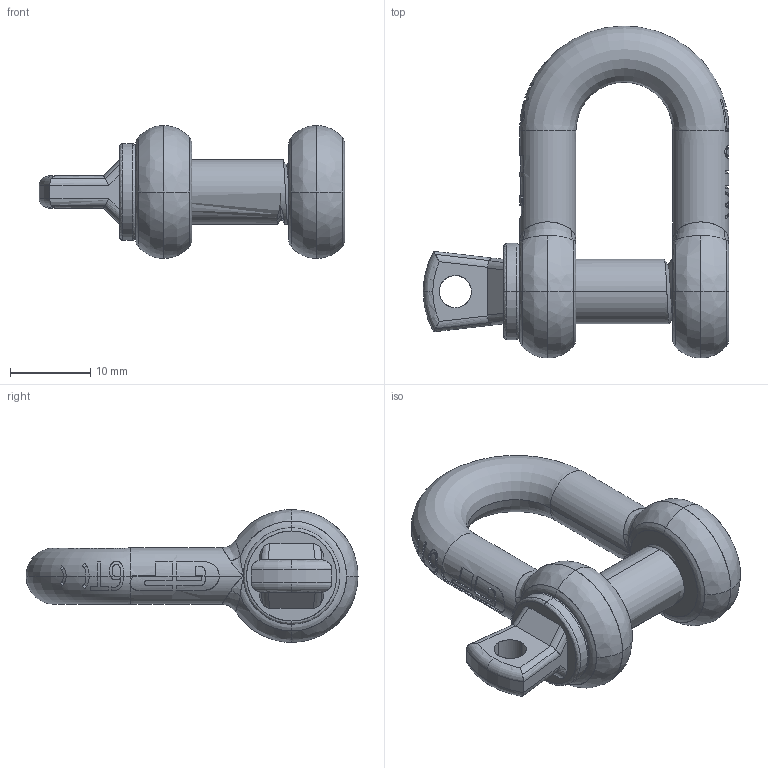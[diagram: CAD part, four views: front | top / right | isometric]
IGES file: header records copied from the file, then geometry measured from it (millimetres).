
Start section: START RECORD GO HERE.
Global section: file name: 0,5.igs; native system: Solidworks 2009      A Version 5 Release 17 ; preprocessor: Solidworks                 ; author: v.b.; organization: P4; date: 20090807.081952; units: millimetre
Bounding box: 38 x 41.25 x 16.5 mm (x, y, z)
Surface area: 4003.6 mm2 (no closed solid volume)
Topology: 0 solids, 0 shells, 344 faces, 2552 edges, 2544 vertices
Faces by surface type: bspline 135, revolution 116, plane 93
